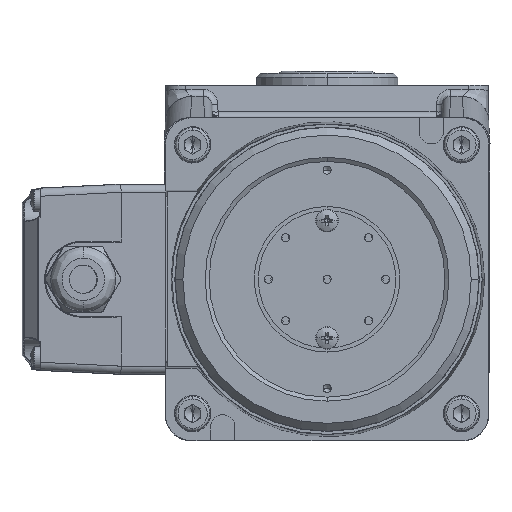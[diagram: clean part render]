
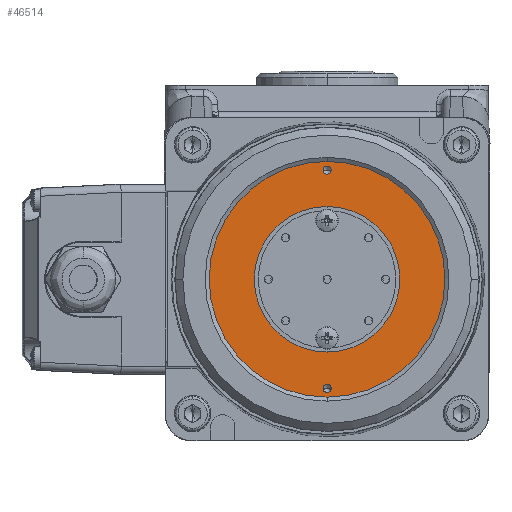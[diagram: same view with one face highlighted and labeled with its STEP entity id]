
A CAD part, front view. The second image highlights one B-rep face of the part: STEP entity #46514.
In plain terms, the highlighted planar face has unit normal (0, -1, 0) as drawn and (0, 1, 0) by its records, which use the part's own axes.
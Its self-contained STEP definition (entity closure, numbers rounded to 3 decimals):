
#1247 = VERTEX_POINT ( 'NONE', #21718 ) ;
#1519 = DIRECTION ( 'NONE',  ( 0., 0., 1. ) ) ;
#3139 = CARTESIAN_POINT ( 'NONE',  ( 0., 78.75, 0. ) ) ;
#3768 = ORIENTED_EDGE ( 'NONE', *, *, #87582, .T. ) ;
#6813 = EDGE_CURVE ( 'NONE', #56025, #83297, #58947, .T. ) ;
#9419 = CIRCLE ( 'NONE', #34436, 1. ) ;
#9621 = AXIS2_PLACEMENT_3D ( 'NONE', #21260, #21234, #21034 ) ;
#9742 = CARTESIAN_POINT ( 'NONE',  ( 0., 78.75, 29.15 ) ) ;
#10380 = AXIS2_PLACEMENT_3D ( 'NONE', #22148, #22062, #21947 ) ;
#10721 = ORIENTED_EDGE ( 'NONE', *, *, #6813, .F. ) ;
#12836 = EDGE_CURVE ( 'NONE', #17896, #76854, #47414, .T. ) ;
#15626 = ORIENTED_EDGE ( 'NONE', *, *, #12836, .T. ) ;
#16566 = DIRECTION ( 'NONE',  ( 0., 0., -1. ) ) ;
#16586 = DIRECTION ( 'NONE',  ( 0., -1., 0. ) ) ;
#16698 = CARTESIAN_POINT ( 'NONE',  ( 0., 78.75, 0. ) ) ;
#17217 = DIRECTION ( 'NONE',  ( 0., 0., 1. ) ) ;
#17876 = VERTEX_POINT ( 'NONE', #23535 ) ;
#17896 = VERTEX_POINT ( 'NONE', #23137 ) ;
#17937 = EDGE_CURVE ( 'NONE', #17876, #58807, #56026, .T. ) ;
#18066 = CARTESIAN_POINT ( 'NONE',  ( 27., 78.75, 0. ) ) ;
#19969 = AXIS2_PLACEMENT_3D ( 'NONE', #67106, #69375, #42163 ) ;
#20095 = EDGE_CURVE ( 'NONE', #83297, #56025, #83156, .T. ) ;
#21034 = DIRECTION ( 'NONE',  ( 0., 0., 1. ) ) ;
#21196 = DIRECTION ( 'NONE',  ( 0., -1., 0. ) ) ;
#21234 = DIRECTION ( 'NONE',  ( 0., -1., 0. ) ) ;
#21260 = CARTESIAN_POINT ( 'NONE',  ( 0., 78.75, 0. ) ) ;
#21718 = CARTESIAN_POINT ( 'NONE',  ( 27., 78.75, 1. ) ) ;
#21947 = DIRECTION ( 'NONE',  ( 0., 0., 1. ) ) ;
#22062 = DIRECTION ( 'NONE',  ( 0., -1., 0. ) ) ;
#22148 = CARTESIAN_POINT ( 'NONE',  ( -27., 78.75, 0. ) ) ;
#23137 = CARTESIAN_POINT ( 'NONE',  ( -27., 78.75, -1. ) ) ;
#23535 = CARTESIAN_POINT ( 'NONE',  ( 0., 78.75, -18. ) ) ;
#25181 = DIRECTION ( 'NONE',  ( 0., 0., 1. ) ) ;
#28698 = ORIENTED_EDGE ( 'NONE', *, *, #30017, .T. ) ;
#30017 = EDGE_CURVE ( 'NONE', #58807, #17876, #89371, .T. ) ;
#32796 = EDGE_LOOP ( 'NONE', ( #62824, #15626 ) ) ;
#34052 = CIRCLE ( 'NONE', #68806, 1. ) ;
#34436 = AXIS2_PLACEMENT_3D ( 'NONE', #18066, #66638, #25181 ) ;
#34791 = AXIS2_PLACEMENT_3D ( 'NONE', #84696, #43352, #1519 ) ;
#41270 = CARTESIAN_POINT ( 'NONE',  ( 0., 78.75, -29.15 ) ) ;
#41855 = AXIS2_PLACEMENT_3D ( 'NONE', #16698, #16586, #16566 ) ;
#42163 = DIRECTION ( 'NONE',  ( 0., 0., -1. ) ) ;
#43352 = DIRECTION ( 'NONE',  ( 0., -1., 0. ) ) ;
#43400 = CARTESIAN_POINT ( 'NONE',  ( 27., 78.75, -1. ) ) ;
#43539 = EDGE_LOOP ( 'NONE', ( #28698, #66114 ) ) ;
#45222 = CIRCLE ( 'NONE', #34791, 1. ) ;
#46514 = ADVANCED_FACE ( 'NONE', ( #72443, #73218, #72348, #74249 ), #79357, .T. ) ;
#47414 = CIRCLE ( 'NONE', #10380, 1. ) ;
#51493 = EDGE_CURVE ( 'NONE', #76854, #17896, #34052, .T. ) ;
#53833 = CARTESIAN_POINT ( 'NONE',  ( -27., 78.75, 1. ) ) ;
#56025 = VERTEX_POINT ( 'NONE', #41270 ) ;
#56026 = CIRCLE ( 'NONE', #9621, 18. ) ;
#57561 = AXIS2_PLACEMENT_3D ( 'NONE', #3139, #58917, #17217 ) ;
#57774 = VERTEX_POINT ( 'NONE', #43400 ) ;
#57888 = EDGE_LOOP ( 'NONE', ( #10721, #84658 ) ) ;
#58807 = VERTEX_POINT ( 'NONE', #59834 ) ;
#58917 = DIRECTION ( 'NONE',  ( 0., 1., 0. ) ) ;
#58947 = CIRCLE ( 'NONE', #41855, 29.15 ) ;
#59834 = CARTESIAN_POINT ( 'NONE',  ( 0., 78.75, 18. ) ) ;
#62824 = ORIENTED_EDGE ( 'NONE', *, *, #51493, .T. ) ;
#62831 = CARTESIAN_POINT ( 'NONE',  ( -27., 78.75, 0. ) ) ;
#66114 = ORIENTED_EDGE ( 'NONE', *, *, #17937, .T. ) ;
#66638 = DIRECTION ( 'NONE',  ( 0., -1., 0. ) ) ;
#67106 = CARTESIAN_POINT ( 'NONE',  ( 0., 78.75, 0. ) ) ;
#68649 = ORIENTED_EDGE ( 'NONE', *, *, #73374, .T. ) ;
#68806 = AXIS2_PLACEMENT_3D ( 'NONE', #62831, #21196, #69707 ) ;
#69375 = DIRECTION ( 'NONE',  ( 0., -1., 0. ) ) ;
#69707 = DIRECTION ( 'NONE',  ( 0., 0., 1. ) ) ;
#72348 = FACE_BOUND ( 'NONE', #43539, .T. ) ;
#72443 = FACE_BOUND ( 'NONE', #73227, .T. ) ;
#72712 = AXIS2_PLACEMENT_3D ( 'NONE', #81547, #81472, #81373 ) ;
#73218 = FACE_BOUND ( 'NONE', #32796, .T. ) ;
#73227 = EDGE_LOOP ( 'NONE', ( #3768, #68649 ) ) ;
#73374 = EDGE_CURVE ( 'NONE', #57774, #1247, #9419, .T. ) ;
#74249 = FACE_OUTER_BOUND ( 'NONE', #57888, .T. ) ;
#76854 = VERTEX_POINT ( 'NONE', #53833 ) ;
#79357 = PLANE ( 'NONE',  #57561 ) ;
#81373 = DIRECTION ( 'NONE',  ( 0., 0., 1. ) ) ;
#81472 = DIRECTION ( 'NONE',  ( 0., -1., 0. ) ) ;
#81547 = CARTESIAN_POINT ( 'NONE',  ( 0., 78.75, 0. ) ) ;
#83156 = CIRCLE ( 'NONE', #19969, 29.15 ) ;
#83297 = VERTEX_POINT ( 'NONE', #9742 ) ;
#84658 = ORIENTED_EDGE ( 'NONE', *, *, #20095, .F. ) ;
#84696 = CARTESIAN_POINT ( 'NONE',  ( 27., 78.75, 0. ) ) ;
#87582 = EDGE_CURVE ( 'NONE', #1247, #57774, #45222, .T. ) ;
#89371 = CIRCLE ( 'NONE', #72712, 18. ) ;
